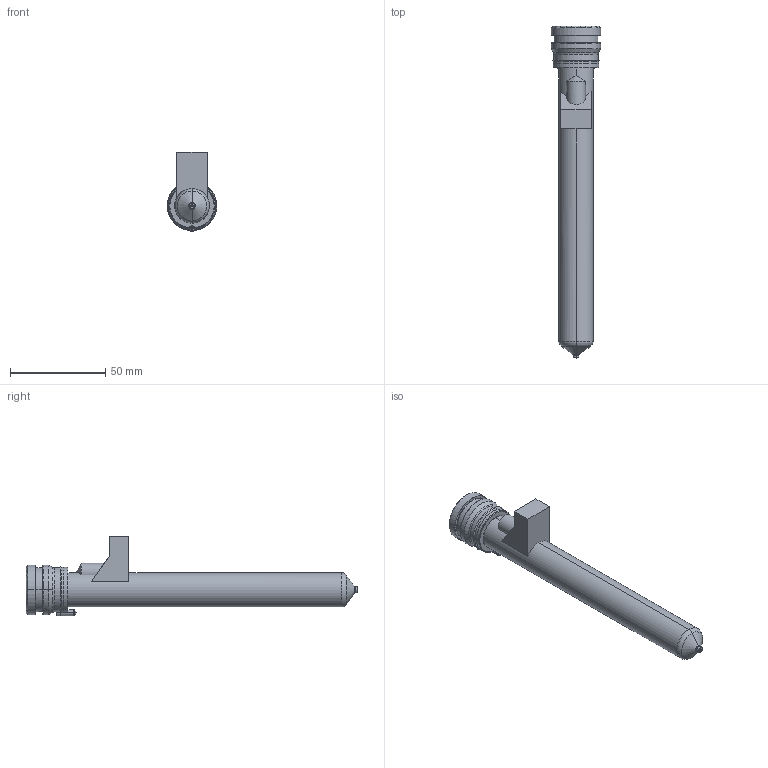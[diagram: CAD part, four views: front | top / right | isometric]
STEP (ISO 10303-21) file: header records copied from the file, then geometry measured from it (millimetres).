
FILE_DESCRIPTION((''),'2;1');
FILE_NAME('MPN-08-24-VP3-156-M','2026-02-05T13:33:14',('UPTIO'),('Thermoplay S.p.A.'),'CREO PARAMETRIC BY PTC INC, 2023494','CREO PARAMETRIC BY PTC INC, 2023494','');
FILE_SCHEMA(('CONFIG_CONTROL_DESIGN','SHAPE_APPEARANCE_LAYERS_GROUPS'));
Length unit declared in the file: millimetre
Products named in the file (1): MPN-08-24-VP3-156-M
Bounding box: 26 x 174.1 x 41.5 mm (x, y, z)
Volume: 33025.5 mm3; surface area: 44142.2 mm2
Topology: 2 solids, 3 shells, 571 faces, 1494 edges, 922 vertices
Faces by surface type: cylinder 178, plane 143, bspline 103, torus 68, cone 66, sphere 7, extrusion 6
Entity records: 30028 total; most frequent: CARTESIAN_POINT 13518, ORIENTED_EDGE 2970, DIRECTION 2631, EDGE_CURVE 1485, AXIS2_PLACEMENT_3D 1029, VERTEX_POINT 922, EDGE_LOOP 601, VECTOR 573
